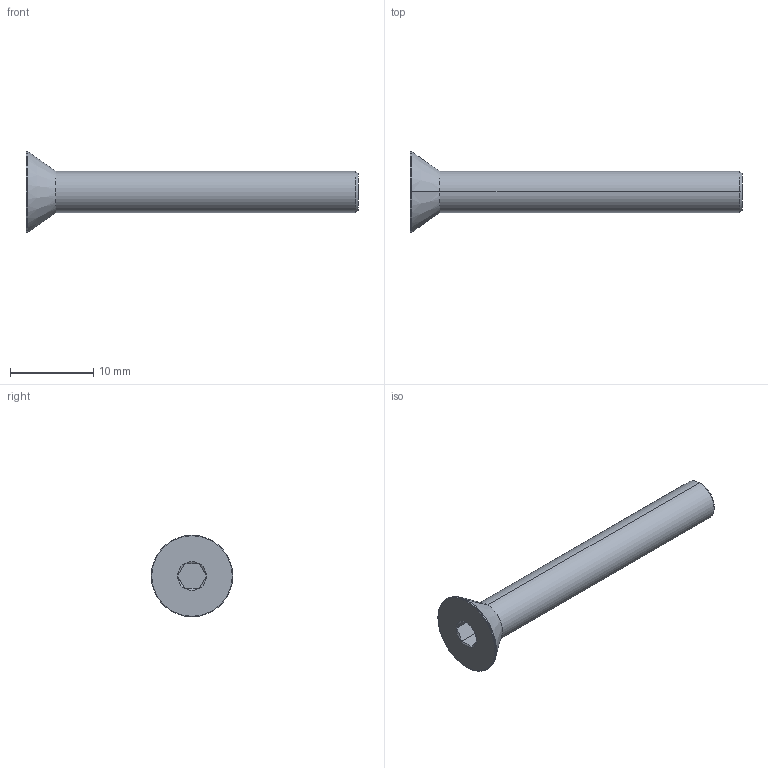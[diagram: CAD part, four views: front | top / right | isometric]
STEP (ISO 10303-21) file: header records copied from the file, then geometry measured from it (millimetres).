
FILE_DESCRIPTION (( 'STEP AP203' ), '1' );
FILE_NAME ('LGDB-304-M5x40.STEP', '2026-08-12T01:32:43', ( '' ), ( '' ), 'SwSTEP 2.0', 'SolidWorks 2020', '' );
FILE_SCHEMA (( 'CONFIG_CONTROL_DESIGN' ));
Length unit declared in the file: millimetre
Products named in the file (1): LGDB-304-M5x40
Bounding box: 40 x 9.8 x 9.8 mm (x, y, z)
Volume: 860.9 mm3; surface area: 791.5 mm2
Topology: 1 solids, 1 shells, 28 faces, 53 edges, 28 vertices
Faces by surface type: cone 11, plane 9, torus 4, cylinder 4
Entity records: 784 total; most frequent: CARTESIAN_POINT 145, DIRECTION 129, ORIENTED_EDGE 106, AXIS2_PLACEMENT_3D 54, EDGE_CURVE 53, EDGE_LOOP 29, ADVANCED_FACE 28, VERTEX_POINT 28
